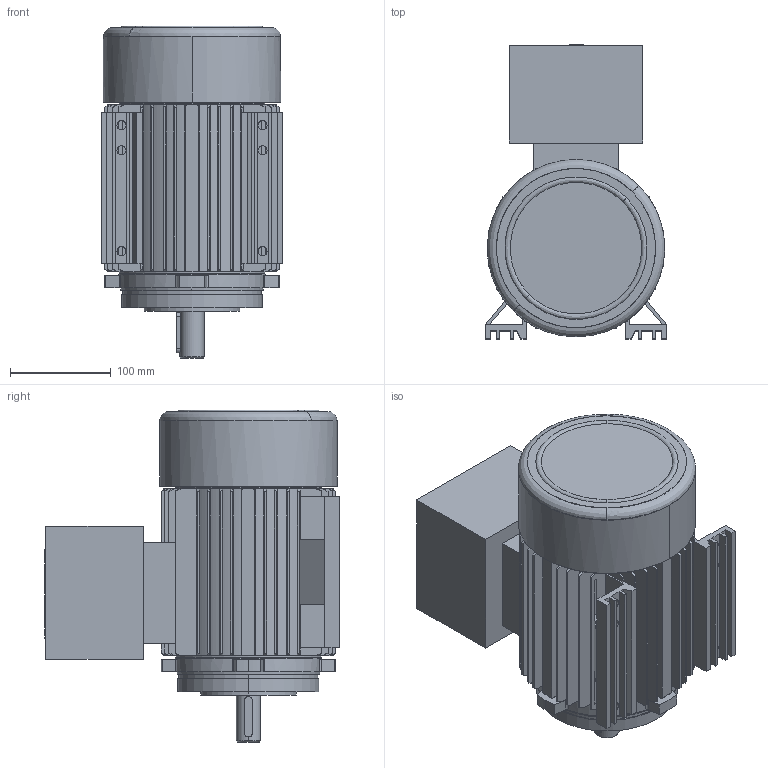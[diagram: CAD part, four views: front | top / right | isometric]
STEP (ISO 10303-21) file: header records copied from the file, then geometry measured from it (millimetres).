
FILE_DESCRIPTION (( 'STEP AP214' ), '1' );
FILE_NAME ('20.18392-F 5AT 90 B34_F115 Exd STANDK.STEP', '2018-11-15T08:52:51', ( '' ), ( '' ), 'SwSTEP 2.0', 'SolidWorks 2018', '' );
FILE_SCHEMA (( 'AUTOMOTIVE_DESIGN' ));
Length unit declared in the file: millimetre
Products named in the file (1): 20.18392-F 5AT 90 B34_F115 Exd STANDK
Bounding box: 180 x 292 x 329.5 mm (x, y, z)
Volume: 4037987.7 mm3; surface area: 740065.2 mm2
Topology: 4 solids, 4 shells, 740 faces, 1953 edges, 1265 vertices
Faces by surface type: plane 355, cylinder 224, cone 153, bspline 8
Entity records: 30009 total; most frequent: CARTESIAN_POINT 5386, ORIENTED_EDGE 3858, DIRECTION 3791, EDGE_CURVE 1929, AXIS2_PLACEMENT_3D 1366, VERTEX_POINT 1265, VECTOR 1059, LINE 1059
